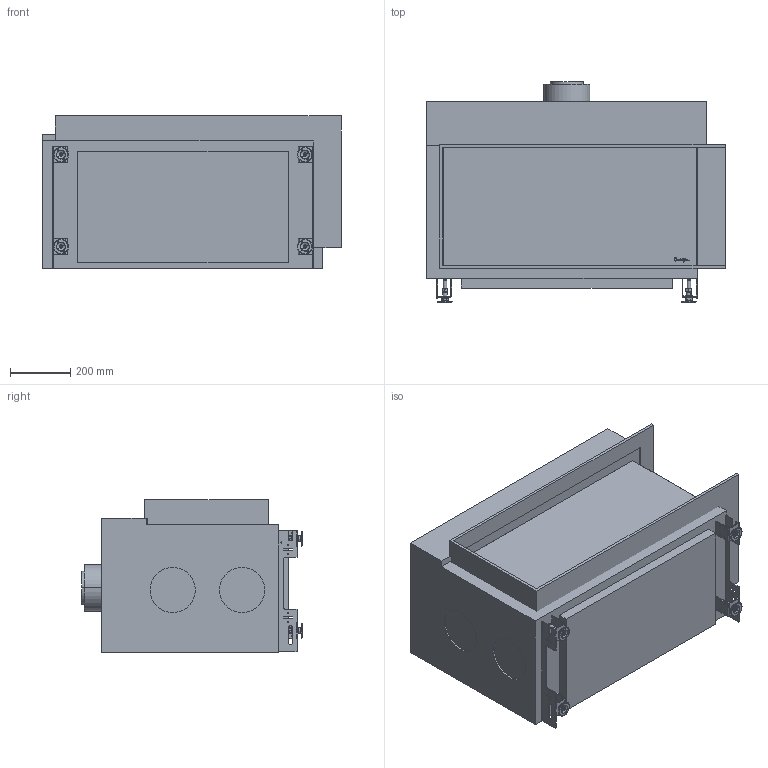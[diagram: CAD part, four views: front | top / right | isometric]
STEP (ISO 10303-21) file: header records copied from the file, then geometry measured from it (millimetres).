
FILE_DESCRIPTION(('Creo Elements/Direct Modeling STEP Export'),'2;1');
FILE_NAME('AVENUE MF 800-40 GHE 2SR.stp','2019-05-13T10:45:11',(''),(''),'PTC Creo Elements/Direct Modeling STEP processor for AP214 (Solid Model)','PTC Creo Elements/Direct Modeling 19.0B 21-Mar-2015 (C) Parametric Technology GmbH','');
FILE_SCHEMA(('AUTOMOTIVE_DESIGN { 1 0 10303 214 1 1 1 1 }'));
Length unit declared in the file: millimetre
Products named in the file (13): Floorsupport_plate_AVN; Adjustable floorsupport M12.1; FIXED_PART.1; MOVING_PART.1; TUBTARA_M12.1; Hexagon nut M12 Din934; Assembly_Floor_support.2; AVN_800-40_2SR_Base; Glass; AVN_800-40_2SR; FinishingFrame; Options; AVENUE_MF_800-40_GHE_2SR
Assembly tree (15 placements, depth 5):
  AVENUE_MF_800-40_GHE_2SR
    Options
      FinishingFrame
    AVN_800-40_2SR
      Glass
      AVN_800-40_2SR_Base
      Assembly_Floor_support.2  x4
        Hexagon nut M12 Din934
        TUBTARA_M12.1
          MOVING_PART.1
          FIXED_PART.1
        Adjustable floorsupport M12.1
        Floorsupport_plate_AVN
Bounding box: 987.9 x 730 x 504 mm (x, y, z)
Volume: 104885417.4 mm3; surface area: 5051540.4 mm2
Topology: 23 solids, 23 shells, 856 faces, 2261 edges, 1505 vertices
Faces by surface type: plane 508, cylinder 212, cone 112, torus 16, sphere 8
Entity records: 14802 total; most frequent: CARTESIAN_POINT 4004, ORIENTED_EDGE 2398, DIRECTION 1810, EDGE_CURVE 1199, VERTEX_POINT 836, VECTOR 680, LINE 680, AXIS2_PLACEMENT_3D 565
